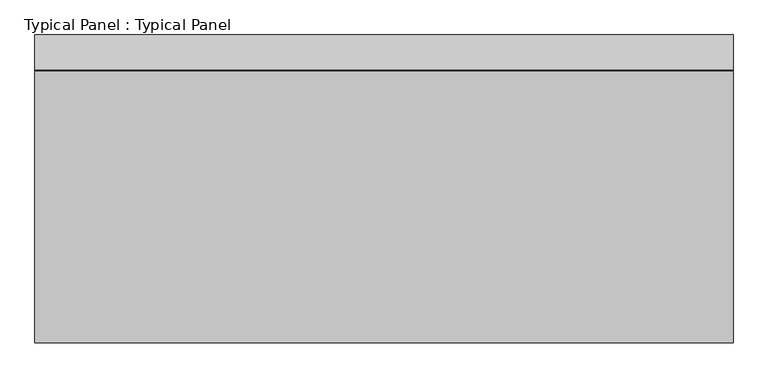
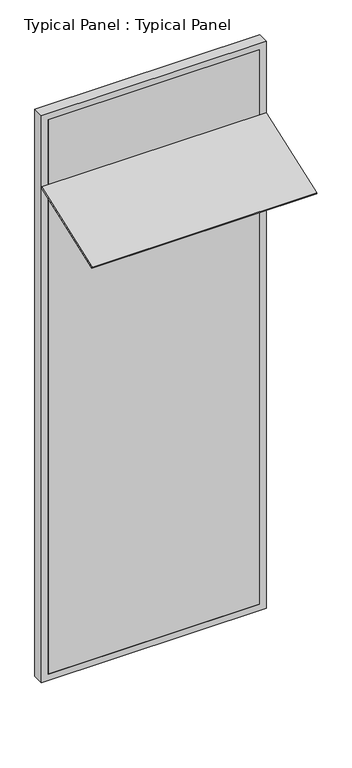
"""IFC4 building model written with IfcOpenShell, lengths in millimetres: plate geometry, Typical Panel : Typical Panel."""

from ifc_helpers import new_model, si_unit, frame, origin, place, context, project, spatial, polyline, outline, extrude, source, transform, mapped, element, save


def typical_panel_typical_panel_555c9846(model_context):
    return source(origin(), model_context, "Body", "SweptSolid", [
        extrude(outline(polyline([(0.0, -620.0), (0.0, 0.0), (1500.0, 0.0), (1500.0, -620.0), (0.0, -620.0)])), frame((750.0, -584.1892235, 3278.5505849), z_axis=(0.0, -0.3420201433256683, 0.9396926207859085), x_axis=(-1.0, 0.0, 0.0)), (0.0, 0.0, 1.0), 10.0),
        extrude(outline(polyline([(0.0, -750.0), (0.0, 750.0), (4000.0, 750.0), (4000.0, -750.0), (0.0, -750.0)]), holes=[polyline([(45.0, 705.0), (45.0, -705.0), (3955.0, -705.0), (3955.0, 705.0), (45.0, 705.0)])]), frame((0.0, -1.5797986, 0.0), z_axis=(0.0, 1.0, 0.0), x_axis=(0.0, 0.0, 1.0)), (0.0, 0.0, 1.0), 75.0),
        extrude(outline(polyline([(705.0, -1.5797986), (-705.0, -1.5797986), (-705.0, 13.4202014), (705.0, 13.4202014), (705.0, -1.5797986)])), frame((0.0, 0.0, 45.0), z_axis=(0.0, 0.0, 1.0), x_axis=(1.0, 0.0, 0.0)), (0.0, 0.0, 1.0), 3910.0),
    ])


if __name__ == "__main__":
    model = new_model("IFC4")
    model_context = context("Model", 3, world=origin())
    ifc_project = project(units=[si_unit("LENGTHUNIT", "METRE", prefix="MILLI")], contexts=[model_context])
    site = spatial("IfcSite", under=ifc_project)
    building = spatial("IfcBuilding", under=site)
    placement = place(None, origin())
    typical_panel_typical_panel_shape = typical_panel_typical_panel_555c9846(model_context)
    element("IfcPlate", 1, ObjectType="Typical Panel : Typical Panel", at=placement, inside=building, context=model_context, shape_type="MappedRepresentation", body=[
        mapped(typical_panel_typical_panel_shape, transform((0.0, 0.0, 0.0), x_axis=(1.0, 0.0, 0.0), y_axis=(0.0, 1.0, 0.0), z_axis=(0.0, 0.0, 1.0))),
    ])
    save(model, "model.ifc")
